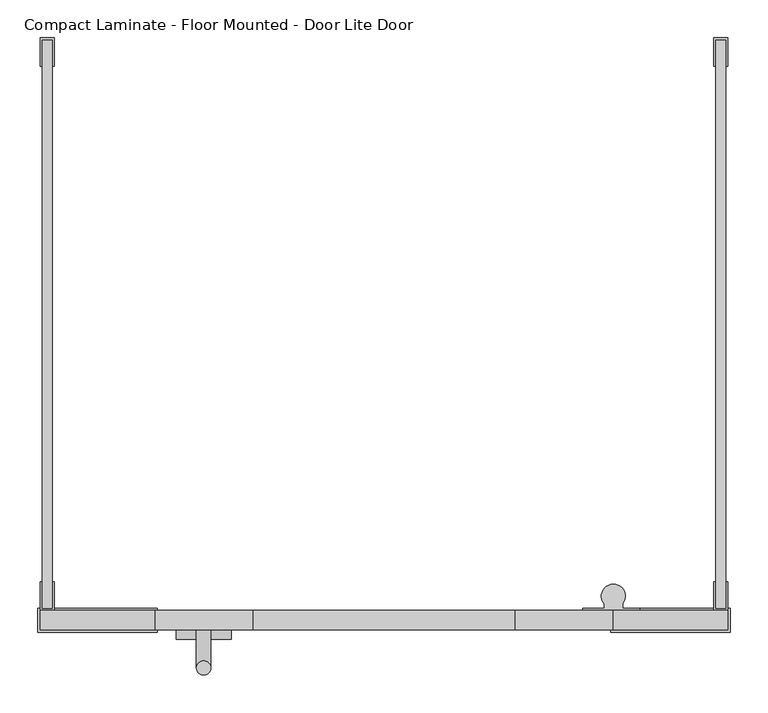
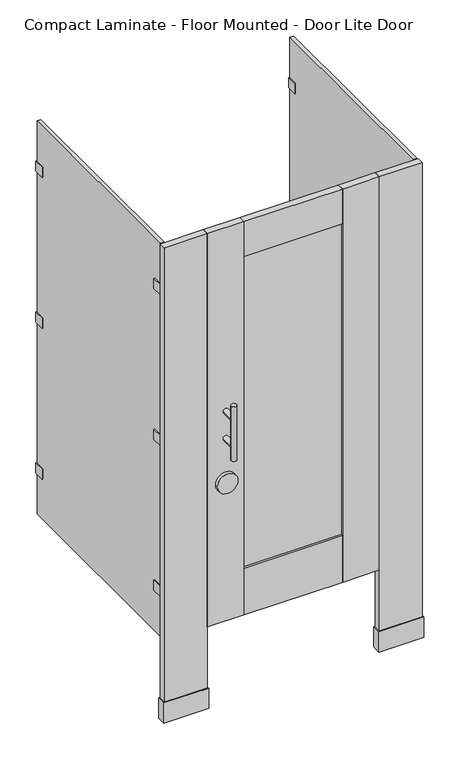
"""IFC4 building model written with IfcOpenShell, lengths in millimetres: proxy geometry, Toilet-Partition_Ironwood-Mfg_Compact-Laminate : Compact Laminate - Floor Mounted - Door Lite Door."""

import ifcopenshell
import ifcopenshell.guid

model = None  # the IFC model being written
_history = None  # IfcOwnerHistory: only IFC2X3 demands one
_inside = {}  # id of a spatial element -> (the spatial element, [elements in it])
_under = {}  # id of a project, library or spatial element -> (it, [spatial elements below it])
_declared = {}  # id of a project -> (the project, [libraries it declares])
_typed = {}  # id of a type object -> (the type object, [elements of that type])
_made_of = {}  # id of a material, layer set ... -> (it, [elements and type objects made of it])


def new_model(schema):
    """Start an empty IFC model of exactly this schema.

    Asked for "IFC4X3", IfcOpenShell would pick the latest addendum, in which some entities
    have other attributes; the version numbers below select the first issue.
    IFC2X3 requires an IfcOwnerHistory on every rooted entity: one is made here for all.
    """
    global model, _history
    if schema == "IFC4X3":
        model = ifcopenshell.file(schema_version=(4, 3, 0, 0))
    else:
        model = ifcopenshell.file(schema=schema)
    _inside.clear()
    _under.clear()
    _declared.clear()
    _typed.clear()
    _made_of.clear()
    _history = None
    if model.schema == "IFC2X3":
        org = make("IfcOrganization", Name="unknown")
        user = make(
            "IfcPersonAndOrganization",
            ThePerson=make("IfcPerson", FamilyName="unknown"),
            TheOrganization=org,
        )
        app = make(
            "IfcApplication",
            ApplicationDeveloper=org,
            Version="unknown",
            ApplicationFullName="unknown",
            ApplicationIdentifier="unknown",
        )
        _history = make(
            "IfcOwnerHistory",
            OwningUser=user,
            OwningApplication=app,
            ChangeAction="ADDED",
            CreationDate=0,
        )
    return model


def make(cls, **values):
    """One entity of the class cls with the attributes given. An attribute that is None is left unset."""
    return model.create_entity(
        cls, **{name: value for name, value in values.items() if value is not None}
    )


def rooted(cls, **values):
    """An entity with a GlobalId (a new one), such as an element, a storey or a relation."""
    return make(cls, GlobalId=ifcopenshell.guid.new(), OwnerHistory=_history, **values)


def si_unit(unit_type, name, prefix=None):
    """IfcSIUnit, for example si_unit("LENGTHUNIT", "METRE", prefix="MILLI")."""
    return make("IfcSIUnit", UnitType=unit_type, Prefix=prefix, Name=name)


def assignment(units):
    """IfcUnitAssignment: the units of a project."""
    return None if units is None else make("IfcUnitAssignment", Units=units)


def point(xyz):
    """IfcCartesianPoint."""
    return None if xyz is None else make("IfcCartesianPoint", Coordinates=xyz)


def direction(xyz):
    """IfcDirection."""
    return None if xyz is None else make("IfcDirection", DirectionRatios=xyz)


def frame(location, z_axis=None, x_axis=None):
    """IfcAxis2Placement3D, a coordinate frame: its origin and axes. An axis left out is left unset."""
    return make(
        "IfcAxis2Placement3D",
        Location=point(location),
        Axis=direction(z_axis),
        RefDirection=direction(x_axis),
    )


def frame_2d(location, x_axis=None):
    """IfcAxis2Placement2D, a coordinate frame in the plane: its origin and x axis."""
    return make(
        "IfcAxis2Placement2D", Location=point(location), RefDirection=direction(x_axis)
    )


def origin():
    """The frame at (0, 0, 0) with its axes left unset."""
    return frame((0.0, 0.0, 0.0))


def origin_with_axes():
    """The frame at (0, 0, 0) with the z axis (0, 0, 1) and the x axis (1, 0, 0) written out."""
    return frame((0.0, 0.0, 0.0), z_axis=(0.0, 0.0, 1.0), x_axis=(1.0, 0.0, 0.0))


def place(relative_to, where):
    """IfcLocalPlacement: puts the frame where relative to a parent placement (None: the world)."""
    return make(
        "IfcLocalPlacement", PlacementRelTo=relative_to, RelativePlacement=where
    )


def context(
    kind, dimensions, precision=None, world=None, true_north=None, identifier=None
):
    """IfcGeometricRepresentationContext, for example the 3D "Model" context."""
    return make(
        "IfcGeometricRepresentationContext",
        ContextIdentifier=identifier,
        ContextType=kind,
        CoordinateSpaceDimension=dimensions,
        Precision=precision,
        WorldCoordinateSystem=world,
        TrueNorth=true_north,
    )


def project(units=None, contexts=None):
    """IfcProject with its units and contexts."""
    return rooted(
        "IfcProject",
        Name="project",
        RepresentationContexts=contexts,
        UnitsInContext=assignment(units),
    )


def spatial(cls, under=None, at=None, **own):
    """A site, building, storey or space (cls), placed at a placement, below another one or the project."""
    s = rooted(cls, ObjectPlacement=at, **own)
    if under is not None:
        _under.setdefault(under.id(), (under, []))[1].append(s)
    return s


def polyline(points):
    """IfcPolyline through the points."""
    return make("IfcPolyline", Points=[point(p) for p in points])


def circle_curve(where, radius):
    """IfcCircle in the frame where."""
    return make("IfcCircle", Position=where, Radius=radius)


def ellipse_curve(where, semi_axis1, semi_axis2):
    """IfcEllipse in the frame where."""
    return make(
        "IfcEllipse", Position=where, SemiAxis1=semi_axis1, SemiAxis2=semi_axis2
    )


def trimmed(basis, trim1, trim2, sense, master):
    """IfcTrimmedCurve: the piece of a basis curve between two trims."""
    return make(
        "IfcTrimmedCurve",
        BasisCurve=basis,
        Trim1=trim1,
        Trim2=trim2,
        SenseAgreement=sense,
        MasterRepresentation=master,
    )


def segment(curve, same_sense, transition):
    """IfcCompositeCurveSegment."""
    return make(
        "IfcCompositeCurveSegment",
        Transition=transition,
        SameSense=same_sense,
        ParentCurve=curve,
    )


def composite_curve(segments, self_intersect=None):
    """IfcCompositeCurve: segments joined end to end."""
    return make("IfcCompositeCurve", Segments=segments, SelfIntersect=self_intersect)


def outline(outer, holes=None, kind="AREA"):
    """IfcArbitraryClosedProfileDef: a profile drawn as a closed curve; with holes, ...WithVoids."""
    if holes is None:
        return make("IfcArbitraryClosedProfileDef", ProfileType=kind, OuterCurve=outer)
    return make(
        "IfcArbitraryProfileDefWithVoids",
        ProfileType=kind,
        OuterCurve=outer,
        InnerCurves=holes,
    )


def extrude(swept, where, along, depth):
    """IfcExtrudedAreaSolid: the profile swept, set in the frame where, extruded along a direction by depth."""
    return make(
        "IfcExtrudedAreaSolid",
        SweptArea=swept,
        Position=where,
        ExtrudedDirection=direction(along),
        Depth=depth,
    )


def shape(context_of_items, identifier, shape_type, items):
    """IfcShapeRepresentation: the items that make up one representation, for example the "Body"."""
    return make(
        "IfcShapeRepresentation",
        ContextOfItems=context_of_items,
        RepresentationIdentifier=identifier,
        RepresentationType=shape_type,
        Items=items,
    )


def source(mapping_origin, context_of_items, identifier, shape_type, items):
    """IfcRepresentationMap: a shape defined once, which mapped items show again and again."""
    return make(
        "IfcRepresentationMap",
        MappingOrigin=mapping_origin,
        MappedRepresentation=shape(context_of_items, identifier, shape_type, items),
    )


def transform(
    local_origin,
    x_axis=None,
    y_axis=None,
    z_axis=None,
    scale=None,
    scale2=None,
    scale3=None,
    uniform=True,
):
    """IfcCartesianTransformationOperator3D, or its non-uniform kind. x_axis, y_axis, z_axis: its Axis1, 2, 3."""
    if uniform:
        return make(
            "IfcCartesianTransformationOperator3D",
            Axis1=direction(x_axis),
            Axis2=direction(y_axis),
            LocalOrigin=point(local_origin),
            Scale=scale,
            Axis3=direction(z_axis),
        )
    return make(
        "IfcCartesianTransformationOperator3DnonUniform",
        Axis1=direction(x_axis),
        Axis2=direction(y_axis),
        LocalOrigin=point(local_origin),
        Scale=scale,
        Axis3=direction(z_axis),
        Scale2=scale2,
        Scale3=scale3,
    )


def mapped(mapping_source, mapping_target):
    """IfcMappedItem: shows the shape of a source again, moved by a transform."""
    return make(
        "IfcMappedItem", MappingSource=mapping_source, MappingTarget=mapping_target
    )


def made_of(thing, what):
    """Note that an element or type object is made of a material, layer set ...; save() writes the relation."""
    if what is not None:
        _made_of.setdefault(what.id(), (what, []))[1].append(thing)
    return thing


def element(
    cls,
    number,
    at=None,
    inside=None,
    cuts=None,
    type_object=None,
    material=None,
    context=None,
    identifier="Body",
    shape_type=None,
    held_by="IfcProductDefinitionShape",
    body=None,
    shapes=None,
    **own,
):
    """One element of the class cls, such as IfcWall. Its Tag is "e" and its number.

    at: its placement. inside: the storey or other place that contains it. cuts: it is an
    opening in that element (IfcRelVoidsElement). A single representation is given by context,
    identifier, shape_type and body (its items); several are given by shapes. held_by: the class
    of the entity that holds the representations. save() writes the other relations.
    """
    e = rooted(cls, Tag="e%d" % number, ObjectPlacement=at, **own)
    if body is not None:
        shapes = [shape(context, identifier, shape_type, body)]
    if shapes is not None:
        e.Representation = make(held_by, Representations=shapes)
    if inside is not None:
        _inside.setdefault(inside.id(), (inside, []))[1].append(e)
    if cuts is not None:
        rooted(
            "IfcRelVoidsElement", RelatingBuildingElement=cuts, RelatedOpeningElement=e
        )
    if type_object is not None:
        _typed.setdefault(type_object.id(), (type_object, []))[1].append(e)
    return made_of(e, material)


def aggregate(whole, parts):
    """IfcRelAggregates: a whole, such as a stair, and the parts it consists of."""
    return rooted("IfcRelAggregates", RelatingObject=whole, RelatedObjects=parts)


def save(model, path):
    """Write the relations noted so far, then the file.

    IfcRelAggregates (storeys below a building ...), IfcRelContainedInSpatialStructure (elements
    in a storey), IfcRelDefinesByType, IfcRelAssociatesMaterial and IfcRelDeclares: one each for
    every whole, place, type object, material and project.
    """
    for whole, parts in _under.values():
        aggregate(whole, parts)
    for where, things in _inside.values():
        rooted(
            "IfcRelContainedInSpatialStructure",
            RelatedElements=things,
            RelatingStructure=where,
        )
    for kind, things in _typed.values():
        rooted("IfcRelDefinesByType", RelatedObjects=things, RelatingType=kind)
    for what, things in _made_of.values():
        rooted("IfcRelAssociatesMaterial", RelatedObjects=things, RelatingMaterial=what)
    for by, libraries in _declared.values():
        rooted("IfcRelDeclares", RelatingContext=by, RelatedDefinitions=libraries)
    model.write(path)


def plane_surface(at):
    """IfcPlane: the flat surface through the origin of the frame at, square to its z axis."""
    return make("IfcPlane", Position=at)


def cylinder_surface(at, radius):
    """IfcCylindricalSurface: all points at the distance radius from the z axis of the frame at."""
    return make("IfcCylindricalSurface", Position=at, Radius=radius)


def advanced_brep(points, edges, surfaces, faces):
    """IfcAdvancedBrep: a solid bounded by faces that lie on surfaces and meet in shared edges.

    An edge is (start, end): straight between two places in points (the first is 0);
    or (start, end, curve); or (start, end, curve, False) where it runs against its curve.
    A face is (place in surfaces, loops), or (place, loops, False) where it looks against
    its surface's normal. A loop lists edges by number (the first is 1), with a minus sign
    where the edge is run from its end to its start. The first loop is the outer one.
    """
    corners = [point(p) for p in points]
    vertices = [make("IfcVertexPoint", VertexGeometry=c) for c in corners]
    made = []
    for start, end, *more in edges:
        made.append(
            make(
                "IfcEdgeCurve",
                EdgeStart=vertices[start],
                EdgeEnd=vertices[end],
                EdgeGeometry=more[0] if more else make("IfcPolyline", Points=[corners[start], corners[end]]),
                SameSense=more[1] if len(more) > 1 else True,
            )
        )
    hull = []
    for where, loops, *sense in faces:
        bounds = []
        for j, loop in enumerate(loops):
            ring = [make("IfcOrientedEdge", EdgeElement=made[abs(k) - 1], Orientation=k > 0) for k in loop]
            bounds.append(
                make(
                    "IfcFaceOuterBound" if j == 0 else "IfcFaceBound",
                    Bound=make("IfcEdgeLoop", EdgeList=ring),
                    Orientation=True,
                )
            )
        hull.append(make("IfcAdvancedFace", Bounds=bounds, FaceSurface=surfaces[where], SameSense=sense[0] if sense else True))
    return make("IfcAdvancedBrep", Outer=make("IfcClosedShell", CfsFaces=hull))


def compact_laminate_floor_mounted_door_lite_door_0cbb2f35(model_context):
    return source(origin(), model_context, "Body", "SolidModel", [
        extrude(outline(polyline([(701.675, -758.825), (701.675, -790.575), (542.925, -790.575), (542.925, -758.825), (701.675, -758.825)])), origin_with_axes(), (0.0, 0.0, 1.0), 76.2),
        extrude(outline(polyline([(698.5, -762.0), (698.5, -787.4), (546.1, -787.4), (546.1, -762.0), (698.5, -762.0)])), origin_with_axes(), (0.0, 0.0, 1.0), 1778.0),
        extrude(outline(polyline([(-219.075, -758.825), (-60.325, -758.825), (-60.325, -790.575), (-219.075, -790.575), (-219.075, -758.825)])), origin_with_axes(), (0.0, 0.0, 1.0), 76.2),
        extrude(outline(polyline([(-215.9, -762.0), (-63.5, -762.0), (-63.5, -787.4), (-215.9, -787.4), (-215.9, -762.0)])), origin_with_axes(), (0.0, 0.0, 1.0), 1778.0),
        extrude(outline(polyline([(415.925, -779.4625), (66.675, -779.4625), (66.675, -769.9375), (415.925, -769.9375), (415.925, -779.4625)])), frame((0.0, 0.0, 479.425), z_axis=(0.0, 0.0, 1.0), x_axis=(1.0, 0.0, 0.0)), (0.0, 0.0, 1.0), 1168.4),
        extrude(outline(polyline([(66.675, -762.0), (66.675, -787.4), (-63.5, -787.4), (-63.5, -762.0), (66.675, -762.0)])), frame((0.0, 0.0, 304.8), z_axis=(0.0, 0.0, 1.0), x_axis=(1.0, 0.0, 0.0)), (0.0, 0.0, 1.0), 1473.2),
        extrude(outline(polyline([(415.925, -762.0), (546.1, -762.0), (546.1, -787.4), (415.925, -787.4), (415.925, -762.0)])), frame((0.0, 0.0, 304.8), z_axis=(0.0, 0.0, 1.0), x_axis=(1.0, 0.0, 0.0)), (0.0, 0.0, 1.0), 1473.2),
        extrude(outline(polyline([(415.925, -762.0), (415.925, -787.4), (66.675, -787.4), (66.675, -762.0), (415.925, -762.0)])), frame((0.0, 0.0, 1647.825), z_axis=(0.0, 0.0, 1.0), x_axis=(1.0, 0.0, 0.0)), (0.0, 0.0, 1.0), 130.175),
        extrude(outline(polyline([(415.925, -762.0), (415.925, -787.4), (66.675, -787.4), (66.675, -762.0), (415.925, -762.0)])), frame((0.0, 0.0, 304.8), z_axis=(0.0, 0.0, 1.0), x_axis=(1.0, 0.0, 0.0)), (0.0, 0.0, 1.0), 174.625),
        extrude(outline(composite_curve([segment(trimmed(circle_curve(frame_2d((827.0875, 1.5875)), 36.5125), [point((827.0875, -34.925))], [point((827.0875, 38.1))], False, "CARTESIAN"), True, "CONTINUOUS"), segment(trimmed(circle_curve(frame_2d((827.0875, 1.5875)), 36.5125), [point((827.0875, 38.1))], [point((827.0875, -34.925))], False, "CARTESIAN"), True, "CONTINUOUS")], self_intersect=False)), frame((0.0, -800.1, 0.0), z_axis=(0.0, 1.0, 0.0), x_axis=(0.0, 0.0, 1.0)), (0.0, 0.0, 1.0), 12.7),
        advanced_brep(
        [(-7.9375, -787.4, 1092.2), (11.1125, -787.4, 1092.2), (-7.9375, -787.4, 990.6), (11.1125, -787.4, 990.6), (11.1125, -838.2, 1092.2), (-7.9375, -838.2, 1092.2), (11.1125, -838.2, 990.6), (-7.9375, -838.2, 990.6), (-7.9375, -838.2, 1143.0), (11.1125, -838.2, 1143.0), (-7.9375, -838.2, 939.8), (11.1125, -838.2, 939.8)],
        [
            (0, 1, circle_curve(frame((1.5875, -787.4, 1092.2), z_axis=(0.0, 1.0, 0.0), x_axis=(1.0, 0.0, 0.0)), 9.525)),
            (1, 0, circle_curve(frame((1.5875, -787.4, 1092.2), z_axis=(0.0, 1.0, 0.0), x_axis=(1.0, 0.0, 0.0)), 9.525)),
            (2, 3, circle_curve(frame((1.5875, -787.4, 990.6), z_axis=(0.0, 1.0, 0.0), x_axis=(1.0, 0.0, 0.0)), 9.525)),
            (3, 2, circle_curve(frame((1.5875, -787.4, 990.6), z_axis=(0.0, 1.0, 0.0), x_axis=(1.0, 0.0, 0.0)), 9.525)),
            (1, 4),
            (4, 5, ellipse_curve(frame((1.5875, -838.2, 1092.2), z_axis=(0.0, 0.7071067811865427, 0.7071067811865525), x_axis=(0.0, -0.7071067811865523, 0.7071067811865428)), 13.4703842, 9.525)),
            (5, 0),
            (5, 4, ellipse_curve(frame((1.5875, -838.2, 1092.2), z_axis=(0.0, 0.7071067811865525, -0.7071067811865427), x_axis=(0.0, -0.7071067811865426, -0.7071067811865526)), 13.4703842, 9.525)),
            (3, 6),
            (6, 7, ellipse_curve(frame((1.5875, -838.2, 990.6), z_axis=(0.0, 0.7071067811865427, 0.7071067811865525), x_axis=(0.0, -0.7071067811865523, 0.7071067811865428)), 13.4703842, 9.525)),
            (7, 2),
            (7, 6, ellipse_curve(frame((1.5875, -838.2, 990.6), z_axis=(0.0, 0.7071067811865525, -0.7071067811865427), x_axis=(0.0, -0.7071067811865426, -0.7071067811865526)), 13.4703842, 9.525)),
            (8, 9, circle_curve(frame((1.5875, -838.2, 1143.0), z_axis=(0.0, 0.0, 1.0), x_axis=(1.0, 0.0, 0.0)), 9.525)),
            (9, 8, circle_curve(frame((1.5875, -838.2, 1143.0), z_axis=(0.0, 0.0, 1.0), x_axis=(1.0, 0.0, 0.0)), 9.525)),
            (10, 11, circle_curve(frame((1.5875, -838.2, 939.8), z_axis=(0.0, 0.0, -1.0), x_axis=(1.0, 0.0, 0.0)), 9.525)),
            (11, 10, circle_curve(frame((1.5875, -838.2, 939.8), z_axis=(0.0, 0.0, -1.0), x_axis=(1.0, 0.0, 0.0)), 9.525)),
            (8, 5),
            (5, 7),
            (7, 10),
            (11, 6),
            (6, 4),
            (4, 9),
        ],
        [
            plane_surface(frame((11.1125, -787.4, 1092.2), z_axis=(0.0, 1.0, 0.0), x_axis=(0.0, 0.0, -1.0))),
            cylinder_surface(frame((1.5875, -787.4, 1092.2), z_axis=(0.0, -1.0, 0.0), x_axis=(1.0, 0.0, 0.0)), 9.525),
            cylinder_surface(frame((1.5875, -787.4, 990.6), z_axis=(0.0, -1.0, 0.0), x_axis=(1.0, 0.0, 0.0)), 9.525),
            plane_surface(frame((11.1125, -838.2, 1143.0), z_axis=(0.0, 0.0, 1.0), x_axis=(0.0, 1.0, 0.0))),
            plane_surface(frame((11.1125, -838.2, 939.8), z_axis=(0.0, 0.0, -1.0), x_axis=(0.0, -1.0, 0.0))),
            cylinder_surface(frame((1.5875, -838.2, 939.8), z_axis=(0.0, 0.0, 1.0), x_axis=(1.0, 0.0, 0.0)), 9.525),
        ],
        [
            (0, [[1, 2]]),
            (0, [[3, 4]]),
            (1, [[-2, 5, 6, 7]]),
            (1, [[-1, -7, 8, -5]]),
            (2, [[-4, 9, 10, 11]]),
            (2, [[-3, -11, 12, -9]]),
            (3, [[13, 14]]),
            (4, [[15, 16]]),
            (5, [[-13, 17, 18, 19, -16, 20, 21, 22]]),
            (5, [[-14, -22, -8, -17]]),
            (5, [[-15, -19, -10, -20]]),
            (5, [[-18, -6, -21, -12]]),
        ],
    ),
        extrude(outline(composite_curve([segment(polyline([(581.3737081, -762.0), (505.1737081, -762.0), (505.1737081, -758.825), (533.7487081, -758.825), (533.7487081, -752.9581331)]), True, "CONTINUOUS"), segment(trimmed(circle_curve(frame_2d((546.1, -742.8902139)), 15.9347861), [point((533.7487081, -752.9581331))], [point((558.4512919, -752.9581331))], False, "CARTESIAN"), True, "CONTINUOUS"), segment(polyline([(558.4512919, -752.9581331), (558.4512919, -758.825), (581.3737081, -758.825), (581.3737081, -762.0)]), True, "CONTINUOUS")], self_intersect=False)), frame((0.0, 0.0, 1574.8), z_axis=(0.0, 0.0, 1.0), x_axis=(1.0, 0.0, 0.0)), (0.0, 0.0, 1.0), 63.5),
        extrude(outline(composite_curve([segment(polyline([(581.3737081, -762.0), (505.1737081, -762.0), (505.1737081, -758.825), (533.7487081, -758.825), (533.7487081, -752.9581331)]), True, "CONTINUOUS"), segment(trimmed(circle_curve(frame_2d((546.1, -742.8902139)), 15.9347861), [point((533.7487081, -752.9581331))], [point((558.4512919, -752.9581331))], False, "CARTESIAN"), True, "CONTINUOUS"), segment(polyline([(558.4512919, -752.9581331), (558.4512919, -758.825), (581.3737081, -758.825), (581.3737081, -762.0)]), True, "CONTINUOUS")], self_intersect=False)), frame((0.0, 0.0, 1009.6500001), z_axis=(0.0, 0.0, 1.0), x_axis=(1.0, 0.0, 0.0)), (0.0, 0.0, 1.0), 63.5),
        extrude(outline(composite_curve([segment(polyline([(581.3737081, -762.0), (505.1737081, -762.0), (505.1737081, -758.825), (533.7487081, -758.825), (533.7487081, -752.9581331)]), True, "CONTINUOUS"), segment(trimmed(circle_curve(frame_2d((546.1, -742.8902139)), 15.9347861), [point((533.7487081, -752.9581331))], [point((558.4512919, -752.9581331))], False, "CARTESIAN"), True, "CONTINUOUS"), segment(polyline([(558.4512919, -752.9581331), (558.4512919, -758.825), (581.3737081, -758.825), (581.3737081, -762.0)]), True, "CONTINUOUS")], self_intersect=False)), frame((0.0, 0.0, 444.5), z_axis=(0.0, 0.0, 1.0), x_axis=(1.0, 0.0, 0.0)), (0.0, 0.0, 1.0), 63.5),
        extrude(outline(polyline([(682.498, -723.9), (682.498, -758.825), (695.198, -758.825), (695.198, -723.9), (698.373, -723.9), (698.373, -762.0), (679.323, -762.0), (679.323, -723.9), (682.498, -723.9)])), frame((0.0, 0.0, 1587.8188137), z_axis=(0.0, 0.0, 1.0), x_axis=(1.0, 0.0, 0.0)), (0.0, 0.0, 1.0), 38.1),
        extrude(outline(polyline([(682.498, -38.1), (679.323, -38.1), (679.323, 0.0), (698.373, 0.0), (698.373, -38.1), (695.198, -38.1), (695.198, -3.175), (682.498, -3.175), (682.498, -38.1)])), frame((0.0, 0.0, 1587.8188137), z_axis=(0.0, 0.0, 1.0), x_axis=(1.0, 0.0, 0.0)), (0.0, 0.0, 1.0), 38.1),
        extrude(outline(polyline([(682.498, -723.9), (682.498, -758.825), (695.198, -758.825), (695.198, -723.9), (698.373, -723.9), (698.373, -762.0), (679.323, -762.0), (679.323, -723.9), (682.498, -723.9)])), frame((0.0, 0.0, 1022.35), z_axis=(0.0, 0.0, 1.0), x_axis=(1.0, 0.0, 0.0)), (0.0, 0.0, 1.0), 38.1),
        extrude(outline(polyline([(682.498, -38.1), (679.323, -38.1), (679.323, 0.0), (698.373, 0.0), (698.373, -38.1), (695.198, -38.1), (695.198, -3.175), (682.498, -3.175), (682.498, -38.1)])), frame((0.0, 0.0, 1022.35), z_axis=(0.0, 0.0, 1.0), x_axis=(1.0, 0.0, 0.0)), (0.0, 0.0, 1.0), 38.1),
        extrude(outline(polyline([(682.498, -723.9), (682.498, -758.825), (695.198, -758.825), (695.198, -723.9), (698.373, -723.9), (698.373, -762.0), (679.323, -762.0), (679.323, -723.9), (682.498, -723.9)])), frame((0.0, 0.0, 457.2), z_axis=(0.0, 0.0, 1.0), x_axis=(1.0, 0.0, 0.0)), (0.0, 0.0, 1.0), 38.1),
        extrude(outline(polyline([(682.498, -38.1), (679.323, -38.1), (679.323, 0.0), (698.373, 0.0), (698.373, -38.1), (695.198, -38.1), (695.198, -3.175), (682.498, -3.175), (682.498, -38.1)])), frame((0.0, 0.0, 457.2), z_axis=(0.0, 0.0, 1.0), x_axis=(1.0, 0.0, 0.0)), (0.0, 0.0, 1.0), 38.1),
        extrude(outline(polyline([(-212.598, -723.9), (-212.598, -758.825), (-199.898, -758.825), (-199.898, -723.9), (-196.723, -723.9), (-196.723, -762.0), (-215.773, -762.0), (-215.773, -723.9), (-212.598, -723.9)])), frame((0.0, 0.0, 1587.8188137), z_axis=(0.0, 0.0, 1.0), x_axis=(1.0, 0.0, 0.0)), (0.0, 0.0, 1.0), 38.1),
        extrude(outline(polyline([(-212.598, -38.1), (-215.773, -38.1), (-215.773, 0.0), (-196.723, 0.0), (-196.723, -38.1), (-199.898, -38.1), (-199.898, -3.175), (-212.598, -3.175), (-212.598, -38.1)])), frame((0.0, 0.0, 1587.8188137), z_axis=(0.0, 0.0, 1.0), x_axis=(1.0, 0.0, 0.0)), (0.0, 0.0, 1.0), 38.1),
        extrude(outline(polyline([(-212.598, -723.9), (-212.598, -758.825), (-199.898, -758.825), (-199.898, -723.9), (-196.723, -723.9), (-196.723, -762.0), (-215.773, -762.0), (-215.773, -723.9), (-212.598, -723.9)])), frame((0.0, 0.0, 1022.35), z_axis=(0.0, 0.0, 1.0), x_axis=(1.0, 0.0, 0.0)), (0.0, 0.0, 1.0), 38.1),
        extrude(outline(polyline([(-212.598, -38.1), (-215.773, -38.1), (-215.773, 0.0), (-196.723, 0.0), (-196.723, -38.1), (-199.898, -38.1), (-199.898, -3.175), (-212.598, -3.175), (-212.598, -38.1)])), frame((0.0, 0.0, 1022.35), z_axis=(0.0, 0.0, 1.0), x_axis=(1.0, 0.0, 0.0)), (0.0, 0.0, 1.0), 38.1),
        extrude(outline(polyline([(-212.598, -723.9), (-212.598, -758.825), (-199.898, -758.825), (-199.898, -723.9), (-196.723, -723.9), (-196.723, -762.0), (-215.773, -762.0), (-215.773, -723.9), (-212.598, -723.9)])), frame((0.0, 0.0, 457.2), z_axis=(0.0, 0.0, 1.0), x_axis=(1.0, 0.0, 0.0)), (0.0, 0.0, 1.0), 38.1),
        extrude(outline(polyline([(-212.598, -38.1), (-215.773, -38.1), (-215.773, 0.0), (-196.723, 0.0), (-196.723, -38.1), (-199.898, -38.1), (-199.898, -3.175), (-212.598, -3.175), (-212.598, -38.1)])), frame((0.0, 0.0, 457.2), z_axis=(0.0, 0.0, 1.0), x_axis=(1.0, 0.0, 0.0)), (0.0, 0.0, 1.0), 38.1),
        extrude(outline(polyline([(-199.898, -3.175), (-199.898, -758.825), (-212.598, -758.825), (-212.598, -3.175), (-199.898, -3.175)])), frame((0.0, 0.0, 304.8), z_axis=(0.0, 0.0, 1.0), x_axis=(1.0, 0.0, 0.0)), (0.0, 0.0, 1.0), 1473.2),
        extrude(outline(polyline([(695.198, -3.175), (695.198, -758.825), (682.498, -758.825), (682.498, -3.175), (695.198, -3.175)])), frame((0.0, 0.0, 304.8), z_axis=(0.0, 0.0, 1.0), x_axis=(1.0, 0.0, 0.0)), (0.0, 0.0, 1.0), 1473.2),
    ])


if __name__ == "__main__":
    model = new_model("IFC4")
    model_context = context("Model", 3, world=origin())
    ifc_project = project(units=[si_unit("LENGTHUNIT", "METRE", prefix="MILLI")], contexts=[model_context])
    site = spatial("IfcSite", under=ifc_project)
    building = spatial("IfcBuilding", under=site)
    placement = place(None, origin())
    compact_laminate_floor_mounted_door_lite_door_shape = compact_laminate_floor_mounted_door_lite_door_0cbb2f35(model_context)
    element("IfcBuildingElementProxy", 1, Name="Toilet-Partition_Ironwood-Mfg_Compact-Laminate : Compact Laminate - Floor Mounted - Door Lite Door", ObjectType="Toilet-Partition_Ironwood-Mfg_Compact-Laminate : Compact Laminate - Floor Mounted - Door Lite Door", at=placement, inside=building, context=model_context, shape_type="MappedRepresentation", body=[
        mapped(compact_laminate_floor_mounted_door_lite_door_shape, transform((0.0, 0.0, 0.0), x_axis=(1.0, 0.0, 0.0), y_axis=(0.0, 1.0, 0.0), z_axis=(0.0, 0.0, 1.0))),
    ])
    save(model, "model.ifc")
